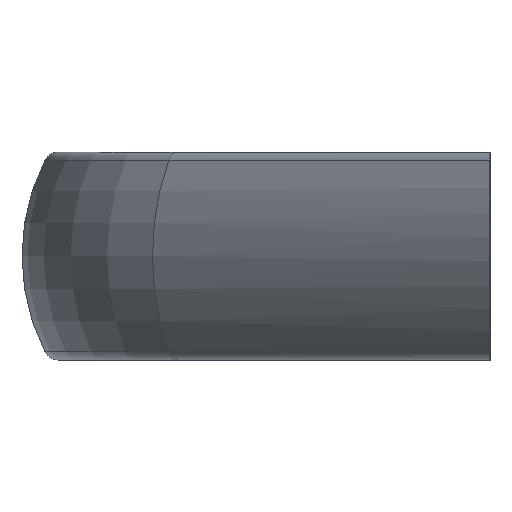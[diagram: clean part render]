
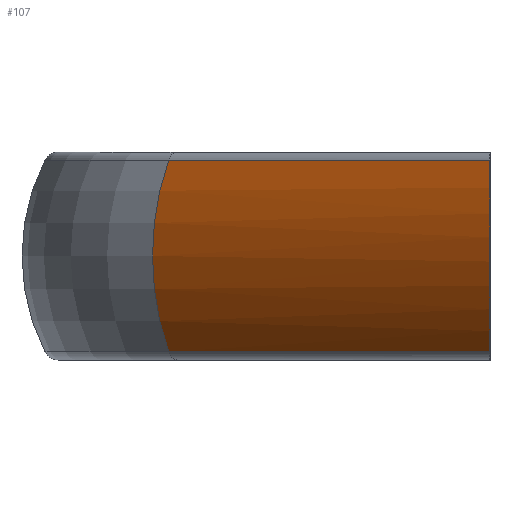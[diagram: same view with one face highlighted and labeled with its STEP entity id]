
A CAD part, left-side view. The second image highlights one B-rep face of the part: STEP entity #107.
In plain terms, the highlighted cylindrical face has radius 28.5 mm (diameter 57 mm), a partial arc.
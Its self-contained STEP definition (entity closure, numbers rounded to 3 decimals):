
#107 = ADVANCED_FACE( '', ( #181 ), #182, .T. );
#181 = FACE_OUTER_BOUND( '', #263, .T. );
#182 = CYLINDRICAL_SURFACE( '', #264, 28.5 );
#263 = EDGE_LOOP( '', ( #512, #513, #514, #515 ) );
#264 = AXIS2_PLACEMENT_3D( '', #516, #517, #518 );
#512 = ORIENTED_EDGE( '', *, *, #644, .F. );
#513 = ORIENTED_EDGE( '', *, *, #643, .T. );
#514 = ORIENTED_EDGE( '', *, *, #623, .F. );
#515 = ORIENTED_EDGE( '', *, *, #645, .F. );
#516 = CARTESIAN_POINT( '', ( -138.074, -33.652, 0. ) );
#517 = DIRECTION( '', ( -0.707, -0.707, 0. ) );
#518 = DIRECTION( '', ( -0.707, 0.707, 0. ) );
#623 = EDGE_CURVE( '', #748, #751, #752, .T. );
#643 = EDGE_CURVE( '', #777, #751, #779, .T. );
#644 = EDGE_CURVE( '', #777, #780, #781, .T. );
#645 = EDGE_CURVE( '', #780, #748, #782, .T. );
#748 = VERTEX_POINT( '', #904 );
#751 = VERTEX_POINT( '', #907 );
#752 = CIRCLE( '', #908, 28.5 );
#777 = VERTEX_POINT( '', #939 );
#779 = LINE( '', #941, #942 );
#780 = VERTEX_POINT( '', #943 );
#781 = ELLIPSE( '', #944, 40.305, 28.5 );
#782 = LINE( '', #945, #946 );
#904 = CARTESIAN_POINT( '', ( -97.117, 43.242, -12.906 ) );
#907 = CARTESIAN_POINT( '', ( -97.117, 43.242, 12.906 ) );
#908 = AXIS2_PLACEMENT_3D( '', #1088, #1089, #1090 );
#939 = CARTESIAN_POINT( '', ( -140.359, 0., 12.906 ) );
#941 = CARTESIAN_POINT( '', ( -156.042, -15.684, 12.906 ) );
#942 = VECTOR( '', #1136, 1000. );
#943 = CARTESIAN_POINT( '', ( -140.359, 0., -12.906 ) );
#944 = AXIS2_PLACEMENT_3D( '', #1137, #1138, #1139 );
#945 = CARTESIAN_POINT( '', ( -156.042, -15.684, -12.906 ) );
#946 = VECTOR( '', #1140, 1000. );
#1088 = CARTESIAN_POINT( '', ( -79.149, 25.274, 0. ) );
#1089 = DIRECTION( '', ( 0.707, 0.707, 0. ) );
#1090 = DIRECTION( '', ( 0., 0., -1. ) );
#1136 = DIRECTION( '', ( 0.707, 0.707, 0. ) );
#1137 = CARTESIAN_POINT( '', ( -104.423, 0., 0. ) );
#1138 = DIRECTION( '', ( 0., -1., 0. ) );
#1139 = DIRECTION( '', ( 1., 0., 0. ) );
#1140 = DIRECTION( '', ( 0.707, 0.707, 0. ) );
